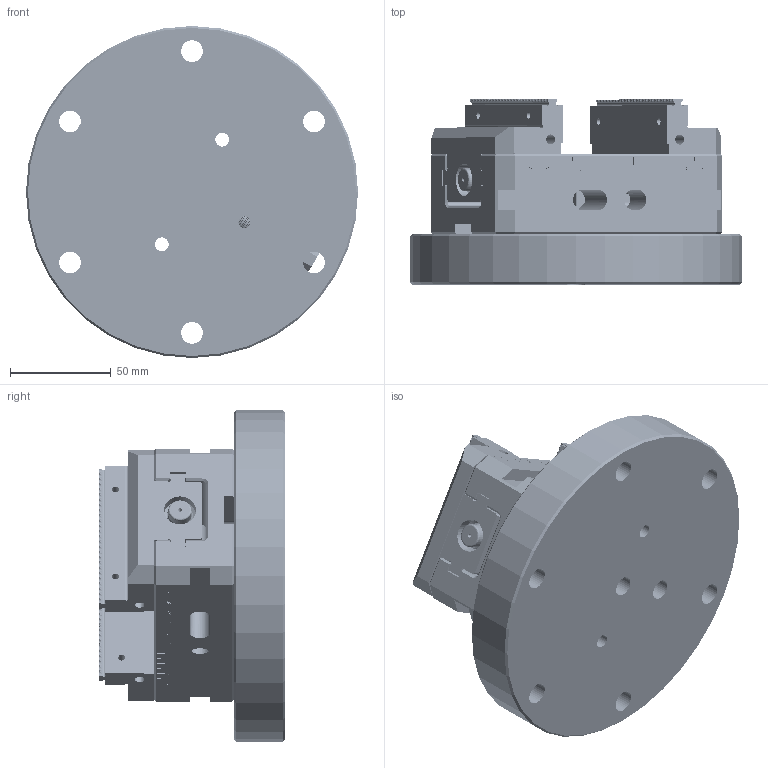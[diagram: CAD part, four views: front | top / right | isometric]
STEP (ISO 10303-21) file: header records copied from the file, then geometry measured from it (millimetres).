
FILE_DESCRIPTION (( 'STEP AP214' ), '1' );
FILE_NAME ('05-0013_05-0205.STEP', '2022-11-10T17:55:32', ( '' ), ( '' ), 'SwSTEP 2.0', 'SolidWorks 2021', '' );
FILE_SCHEMA (( 'AUTOMOTIVE_DESIGN' ));
Length unit declared in the file: inch
Products named in the file (3): 05-0013_05-0205; 05-0013; 05-0205
Assembly tree (2 placements, depth 2):
  05-0013_05-0205
    05-0205
    05-0013
Bounding box: 165 x 92 x 165 mm (x, y, z)
Volume: 882359.4 mm3; surface area: 177157.9 mm2
Topology: 21 solids, 21 shells, 4978 faces, 13743 edges, 8994 vertices
Faces by surface type: plane 2465, cylinder 1625, bspline 576, cone 312
Entity records: 277963 total; most frequent: CARTESIAN_POINT 98023, ORIENTED_EDGE 27370, DIRECTION 19567, EDGE_CURVE 13685, VERTEX_POINT 8994, VECTOR 8573, LINE 8573, AXIS2_PLACEMENT_3D 5497
